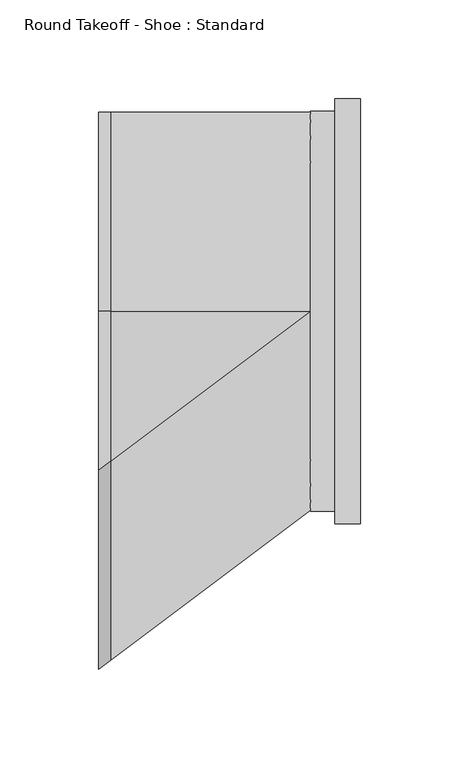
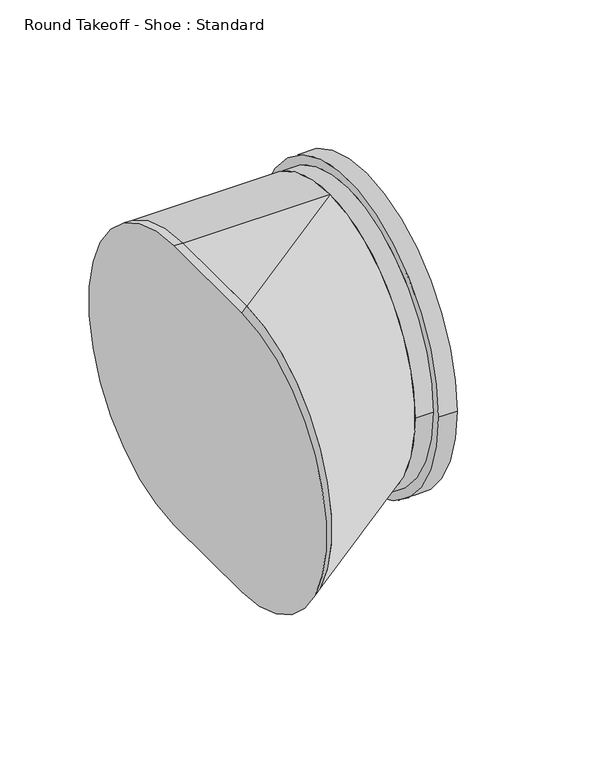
"""IFC4 building model written with IfcOpenShell, lengths in millimetres: duct fitting geometry, Round Takeoff - Shoe : Standard."""

from ifc_helpers import new_model, si_unit, point, frame, origin, place, context, project, spatial, circle_curve, trimmed, source, transform, mapped, element, save
from ifc_brep_helpers import plane_surface, cylinder_surface, extruded_surface, advanced_brep


def round_takeoff_shoe_standard_04262b54(model_context):
    return source(origin(), model_context, "Body", "AdvancedBrep", [
        advanced_brep(
        [(127.0, -107.95, 0.0), (127.0, 107.95, 0.0), (101.6, -101.6, 0.0), (101.6, 101.6, 0.0), (114.0743747, 101.6, 0.0), (114.0743747, -101.6, 0.0), (114.0743747, -107.95, 0.0), (114.0743747, 107.95, 0.0)],
        [
            (0, 1, circle_curve(frame((127.0, 0.0, 0.0), z_axis=(1.0, 0.0, 0.0), x_axis=(0.0, 1.0, 0.0)), 107.95)),
            (1, 0, circle_curve(frame((127.0, 0.0, 0.0), z_axis=(1.0, 0.0, 0.0), x_axis=(0.0, 1.0, 0.0)), 107.95)),
            (2, 3, circle_curve(frame((101.6, 0.0, 0.0), z_axis=(-1.0, 0.0, 0.0), x_axis=(0.0, 1.0, 0.0)), 101.6)),
            (3, 2, circle_curve(frame((101.6, 0.0, 0.0), z_axis=(-1.0, 0.0, 0.0), x_axis=(0.0, 1.0, 0.0)), 101.6)),
            (3, 4),
            (4, 5, circle_curve(frame((114.0743747, 0.0, 0.0), z_axis=(-1.0, 0.0, 0.0), x_axis=(0.0, 1.0, 0.0)), 101.6)),
            (5, 2),
            (5, 4, circle_curve(frame((114.0743747, 0.0, 0.0), z_axis=(-1.0, 0.0, 0.0), x_axis=(0.0, 1.0, 0.0)), 101.6)),
            (6, 7, circle_curve(frame((114.0743747, 0.0, 0.0), z_axis=(-1.0, 0.0, 0.0), x_axis=(0.0, 1.0, 0.0)), 107.95)),
            (7, 6, circle_curve(frame((114.0743747, 0.0, 0.0), z_axis=(-1.0, 0.0, 0.0), x_axis=(0.0, 1.0, 0.0)), 107.95)),
            (0, 6),
            (7, 1),
        ],
        [
            plane_surface(frame((127.0, 101.6, 0.0), z_axis=(1.0, 0.0, 0.0), x_axis=(0.0, 0.0, 1.0))),
            plane_surface(frame((101.6, 101.6, 0.0), z_axis=(-1.0, 0.0, 0.0), x_axis=(0.0, 0.0, -1.0))),
            cylinder_surface(frame((101.6, 0.0, 0.0), z_axis=(1.0, 0.0, 0.0), x_axis=(0.0, 1.0, 0.0)), 101.6),
            plane_surface(frame((114.0743747, 107.95, 0.0), z_axis=(-1.0, 0.0, 0.0), x_axis=(0.0, 0.0, -1.0))),
            cylinder_surface(frame((114.0743747, 0.0, 0.0), z_axis=(1.0, 0.0, 0.0), x_axis=(0.0, 1.0, 0.0)), 107.95),
        ],
        [
            (0, [[1, 2]]),
            (1, [[3, 4]]),
            (2, [[-4, 5, 6, 7]]),
            (2, [[-3, -7, 8, -5]]),
            (3, [[9, 10], [-6, -8]]),
            (4, [[-1, 11, -10, 12]]),
            (4, [[-2, -12, -9, -11]]),
        ],
    ),
        advanced_brep(
        [(-6.096, 0.0, -101.6), (-6.096, -80.772, -101.6), (-6.096, -80.772, 101.6), (-6.096, 0.0, 101.6), (0.0, 0.0, -101.6), (0.0, 0.0, 101.6), (0.0, -76.2, 101.6), (0.0, -76.2, -101.6)],
        [
            (0, 1),
            (1, 2, circle_curve(frame((-6.096, -80.772, 0.0), z_axis=(-1.0, 0.0, 0.0), x_axis=(0.0, 1.0, 0.0)), 101.6)),
            (2, 3),
            (3, 0, circle_curve(frame((-6.096, 0.0, 0.0), z_axis=(-1.0, 0.0, 0.0), x_axis=(0.0, 1.0, 0.0)), 101.6)),
            (4, 5, circle_curve(frame((0.0, 0.0, 0.0), z_axis=(1.0, 0.0, 0.0), x_axis=(0.0, 1.0, 0.0)), 101.6)),
            (5, 6),
            (6, 7, circle_curve(frame((0.0, -76.2, 0.0), z_axis=(1.0, 0.0, 0.0), x_axis=(0.0, 1.0, 0.0)), 101.6)),
            (7, 4),
            (7, 1),
            (0, 4),
            (6, 2),
            (5, 3),
        ],
        [
            plane_surface(frame((-6.096, -40.386, 0.0), z_axis=(-1.0, 0.0, 0.0), x_axis=(0.0, 1.0, 0.0))),
            plane_surface(frame((0.0, -38.1, 0.0), z_axis=(1.0, 0.0, 0.0), x_axis=(0.0, 1.0, 0.0))),
            plane_surface(frame((0.0, -38.1, -101.6), z_axis=(0.0, 0.0, -1.0), x_axis=(0.0, -1.0, 0.0))),
            extruded_surface(trimmed(circle_curve(frame((0.0, -76.2, 0.0), z_axis=(-1.0, 0.0, 0.0), x_axis=(0.0, 1.0, 0.0)), 101.6), [point((0.0, -76.2, -101.6))], [point((0.0, -76.2, 101.6))], True, "CARTESIAN"), (-6.096, -4.572000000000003, 0.0), 7.620000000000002),
            plane_surface(frame((0.0, -38.1, 101.6), z_axis=(0.0, 0.0, 1.0), x_axis=(0.0, 1.0, 0.0))),
            cylinder_surface(frame((0.0, 0.0, 0.0), z_axis=(-1.0, 0.0, 0.0), x_axis=(0.0, 1.0, 0.0)), 101.6),
        ],
        [
            (0, [[1, 2, 3, 4]]),
            (1, [[5, 6, 7, 8]]),
            (2, [[-8, 9, -1, 10]]),
            (3, [[-7, 11, -2, -9]]),
            (4, [[-6, 12, -3, -11]]),
            (5, [[-5, -10, -4, -12]]),
        ],
    ),
        advanced_brep(
        [(101.6, 0.0, -101.6), (101.6, 0.0, 101.6), (0.0, 0.0, -101.6), (0.0, -76.2, -101.6), (0.0, -76.2, 101.6), (0.0, 0.0, 101.6)],
        [
            (0, 1, circle_curve(frame((101.6, 0.0, 0.0), z_axis=(1.0, 0.0, 0.0), x_axis=(0.0, 1.0, 0.0)), 101.6)),
            (1, 0, circle_curve(frame((101.6, 0.0, 0.0), z_axis=(1.0, 0.0, 0.0), x_axis=(0.0, 1.0, 0.0)), 101.6)),
            (2, 3),
            (3, 4, circle_curve(frame((0.0, -76.2, 0.0), z_axis=(-1.0, 0.0, 0.0), x_axis=(0.0, 1.0, 0.0)), 101.6)),
            (4, 5),
            (5, 2, circle_curve(frame((0.0, 0.0, 0.0), z_axis=(-1.0, 0.0, 0.0), x_axis=(0.0, 1.0, 0.0)), 101.6)),
            (5, 1),
            (0, 2),
            (4, 1),
            (3, 0),
        ],
        [
            plane_surface(frame((101.6, 0.0, 0.0), z_axis=(1.0, 0.0, 0.0), x_axis=(0.0, 1.0, 0.0))),
            plane_surface(frame((0.0, -38.1, 0.0), z_axis=(-1.0, 0.0, 0.0), x_axis=(0.0, 1.0, 0.0))),
            cylinder_surface(frame((0.0, 0.0, 0.0), z_axis=(1.0, 0.0, 0.0), x_axis=(0.0, 1.0, 0.0)), 101.6),
            plane_surface(frame((0.0, -38.1, 101.6), z_axis=(0.0, 0.0, 1.0), x_axis=(0.0, -1.0, 0.0))),
            extruded_surface(trimmed(circle_curve(frame((0.0, -76.2, 0.0), z_axis=(1.0, 0.0, 0.0), x_axis=(0.0, 1.0, 0.0)), 101.6), [point((0.0, -76.2, 101.6))], [point((0.0, -76.2, -101.6))], True, "CARTESIAN"), (101.6, 76.2, 0.0), 127.0),
            plane_surface(frame((0.0, -38.1, -101.6), z_axis=(0.0, 0.0, -1.0), x_axis=(0.0, 1.0, 0.0))),
        ],
        [
            (0, [[1, 2]]),
            (1, [[3, 4, 5, 6]]),
            (2, [[-6, 7, -1, 8]]),
            (3, [[-5, 9, -7]]),
            (4, [[-4, 10, -2, -9]]),
            (5, [[-3, -8, -10]]),
        ],
    ),
    ])


if __name__ == "__main__":
    model = new_model("IFC4")
    model_context = context("Model", 3, world=origin())
    ifc_project = project(units=[si_unit("LENGTHUNIT", "METRE", prefix="MILLI")], contexts=[model_context])
    site = spatial("IfcSite", under=ifc_project)
    building = spatial("IfcBuilding", under=site)
    placement = place(None, origin())
    round_takeoff_shoe_standard_shape = round_takeoff_shoe_standard_04262b54(model_context)
    element("IfcDuctFitting", 1, ObjectType="Round Takeoff - Shoe : Standard", at=placement, inside=building, context=model_context, shape_type="MappedRepresentation", body=[
        mapped(round_takeoff_shoe_standard_shape, transform((0.0, 0.0, 0.0), x_axis=(1.0, 0.0, 0.0), y_axis=(0.0, 1.0, 0.0), z_axis=(0.0, 0.0, 1.0))),
    ])
    save(model, "model.ifc")
